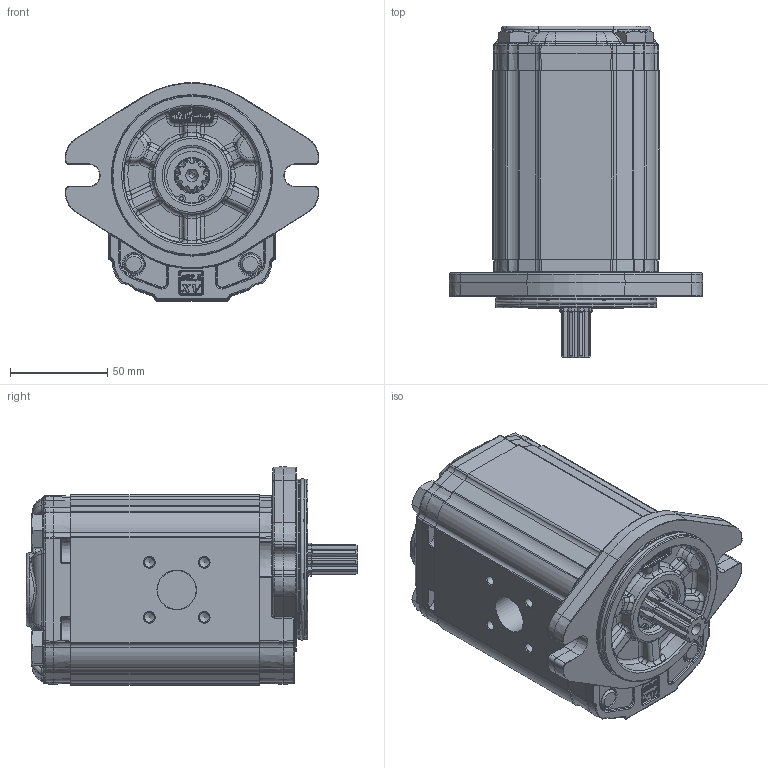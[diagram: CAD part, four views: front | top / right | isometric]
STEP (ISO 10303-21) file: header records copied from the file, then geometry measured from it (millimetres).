
FILE_DESCRIPTION(/* description */ ('Unknown'),/* implementation_level */ '2;1');
FILE_NAME(/* name */ 'X2M6131ISSF',/* time_stamp */ '2026-06-03T18:40:43+02:00',/* author */ ('Unknown'),/* organization */ ('Unknown'),/* preprocessor_version */ 'ST-DEVELOPER v16.7',/* originating_system */ 'Solid Edge',/* authorisation */ 'Unknown');
FILE_SCHEMA (('AUTOMOTIVE_DESIGN {1 0 10303 214 3 1 1}'));
Products named in the file (5): X2M6131ISSF; X2M31; 2I; X2SSH97; XM219-F
Assembly tree (4 placements, depth 2):
  X2M6131ISSF
    X2M31
    2I
    X2SSH97
    XM219-F
Bounding box: 130.38 x 170.7 x 112.3 mm (x, y, z)
Volume: 1018371.1 mm3; surface area: 136694.6 mm2
Topology: 4 solids, 12 shells, 2989 faces, 7247 edges, 4302 vertices
Faces by surface type: cylinder 862, bspline 752, plane 692, cone 294, torus 287, sphere 102
Full cylindrical faces by diameter (mm): 2 x2, 5 x8, 8.5 x6, 10 x8, 10.5 x8, 16 x4, 17.42 x1, 18 x1, 20 x2, 20.595 x1, 23.332 x1, 25 x1, 25.834 x1, 28.5 x1, 28.56 x1, 28.57 x1, 28.8 x1, 30.4 x1, 79.6 x2, 82.5 x2
Entity records: 141309 total; most frequent: CARTESIAN_POINT 58570, ORIENTED_EDGE 13798, DIRECTION 11543, EDGE_CURVE 6899, AXIS2_PLACEMENT_3D 4648, VERTEX_POINT 4219, FACE_BOUND 3294, EDGE_LOOP 3284
